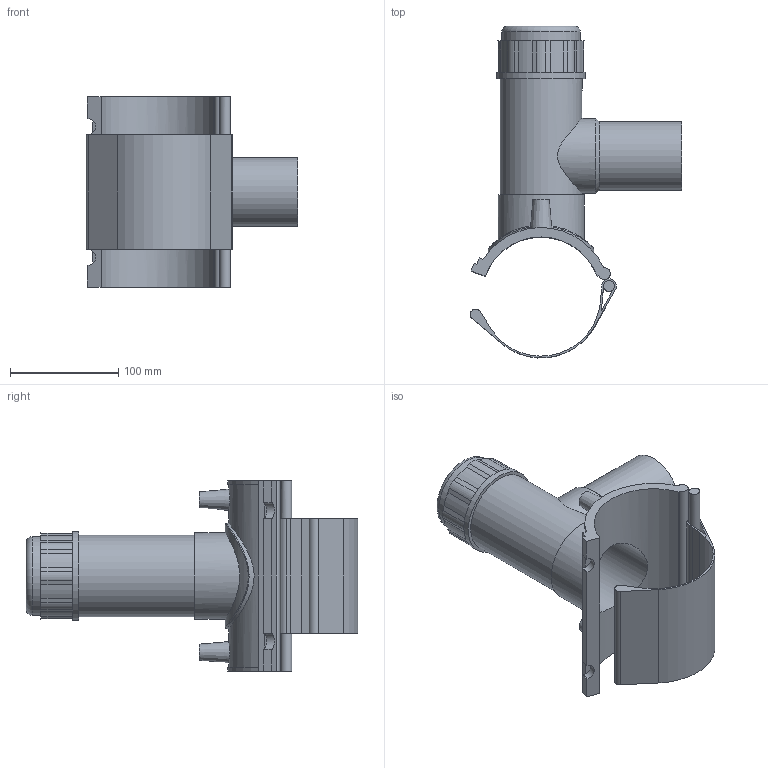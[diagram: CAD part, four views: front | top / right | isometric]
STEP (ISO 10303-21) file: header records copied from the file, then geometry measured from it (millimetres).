
FILE_DESCRIPTION(/* description */ ('PLASSON TAPPING TEE SADDLE 110mm x 63mm'),/* implementation_level */ '2;1');
FILE_NAME(/* name */ 'C:\Dropbox\KIMPROJECTS-Inventor 2019\99-16-3568-Processing\ElectroFusion Fittings\491304\491304110063.stp',/* time_stamp */ '2023-03-23T11:28:28+02:00',/* author */ ('KIM'),/* organization */ (''),/* preprocessor_version */ 'ST-DEVELOPER v17.2',/* originating_system */ 'Autodesk Inventor 2019',/* authorisation */ '');
FILE_SCHEMA (('AUTOMOTIVE_DESIGN { 1 0 10303 214 3 1 1 }'));
Length unit declared in the file: millimetre
Products named in the file (1): 491304110063
Bounding box: 195.5 x 306.54 x 176 mm (x, y, z)
Volume: 741737 mm3; surface area: 227990.3 mm2
Topology: 2 solids, 2 shells, 108 faces, 282 edges, 193 vertices
Faces by surface type: plane 59, cylinder 44, cone 3, bspline 1, torus 1
Full cylindrical faces by diameter (mm): 4 x2, 10 x3, 50.4 x1, 63 x1, 69.3 x1, 69.6 x1, 72.45 x1, 75.6 x1, 79.6 x1, 81.9 x1, 97.65 x1
Entity records: 3978 total; most frequent: CARTESIAN_POINT 1167, DIRECTION 590, ORIENTED_EDGE 566, EDGE_CURVE 283, AXIS2_PLACEMENT_3D 216, VERTEX_POINT 195, LINE 158, VECTOR 158
